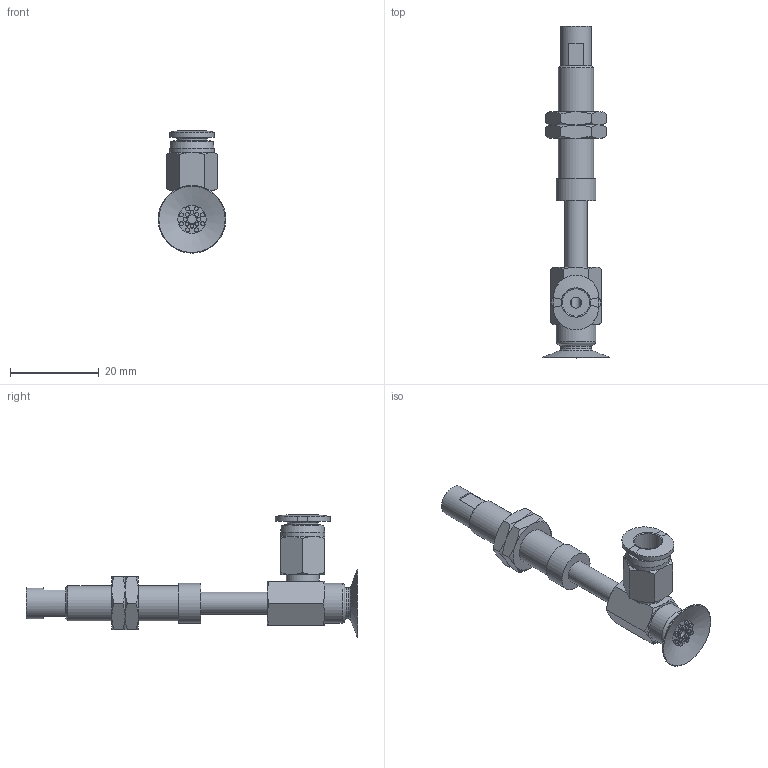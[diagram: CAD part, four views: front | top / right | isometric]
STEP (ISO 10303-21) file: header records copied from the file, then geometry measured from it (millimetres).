
FILE_DESCRIPTION(('STEP AP203'),'1');
FILE_NAME('-O.stp','2025-02-13T07:56:41',(' '),(' '),'Spatial InterOp 3D',' ',' ');
FILE_SCHEMA(('CONFIG_CONTROL_DESIGN'));
Length unit declared in the file: millimetre
Products named in the file (7): BNABPAYS-15A-15-※-O; NAPAYS-10A-15--M; NAPAYS-10A-15--F; Nut-10A-S; CONNECTOR-10A-15-PA; BPAG-15A-※_3D; PC-C_06-M5
Assembly tree (7 placements, depth 2):
  BNABPAYS-15A-15-※-O
    NAPAYS-10A-15--M
    NAPAYS-10A-15--F
    Nut-10A-S  x2
    CONNECTOR-10A-15-PA
    BPAG-15A-※_3D
    PC-C_06-M5
Bounding box: 15.3 x 75 x 27.63 mm (x, y, z)
Volume: 3960.5 mm3; surface area: 6091.4 mm2
Topology: 6 solids, 9 shells, 211 faces, 418 edges, 255 vertices
Faces by surface type: plane 84, cone 66, cylinder 43, torus 11, bspline 4, revolution 3
Full cylindrical faces by diameter (mm): 0.9 x16, 2 x2, 4 x4, 4.134 x2, 5 x4, 6 x2, 7 x3, 7.188 x2, 7.4 x1, 8 x1, 8.2 x1, 9 x2, 10 x1
Entity records: 5240 total; most frequent: CARTESIAN_POINT 1405, DIRECTION 741, ORIENTED_EDGE 584, AXIS2_PLACEMENT_3D 340, EDGE_LOOP 298, EDGE_CURVE 294, VERTEX_POINT 218, FACE_OUTER_BOUND 179
